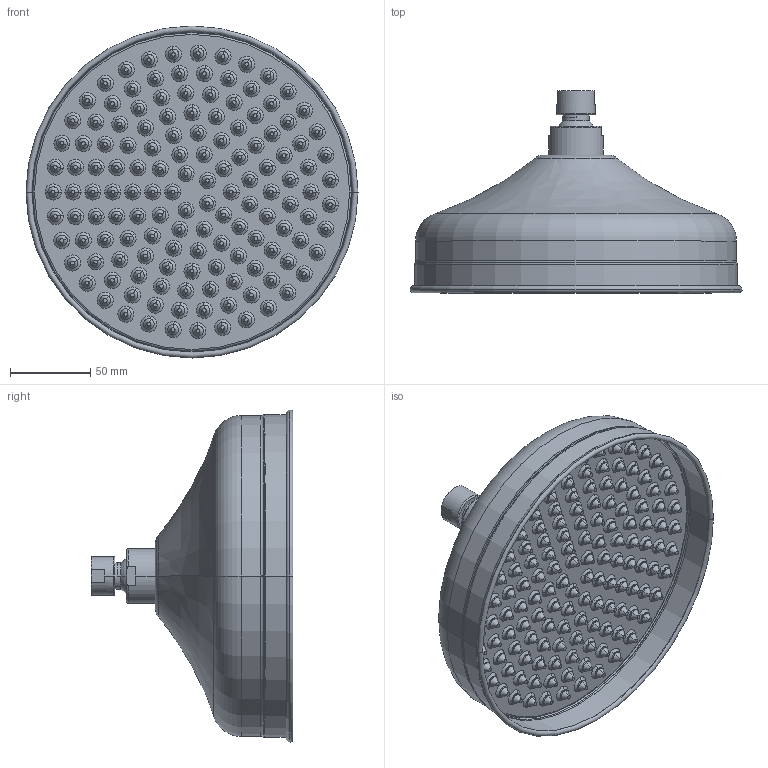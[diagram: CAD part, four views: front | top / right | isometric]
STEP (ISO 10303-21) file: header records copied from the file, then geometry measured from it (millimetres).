
FILE_DESCRIPTION((''),'2;1');
FILE_NAME('46050--_SW0001','2026-10-07T09:52:29',('simi1'),(''),'CREO PARAMETRIC BY PTC INC, 2022244','CREO PARAMETRIC BY PTC INC, 2022244','');
FILE_SCHEMA(('CONFIG_CONTROL_DESIGN'));
Length unit declared in the file: millimetre
Products named in the file (1): 46050--_SW0001
Bounding box: 206.49 x 125.6 x 206.49 mm (x, y, z)
Surface area: 138153.9 mm2 (no closed solid volume)
Topology: 0 solids, 285 shells, 1049 faces, 2396 edges, 1492 vertices
Faces by surface type: torus 308, cylinder 298, cone 282, plane 153, bspline 6, sphere 2
Entity records: 29610 total; most frequent: DIRECTION 6248, CARTESIAN_POINT 5473, ORIENTED_EDGE 3942, AXIS2_PLACEMENT_3D 2825, EDGE_CURVE 2396, CIRCLE 1782, VERTEX_POINT 1492, EDGE_LOOP 1049
